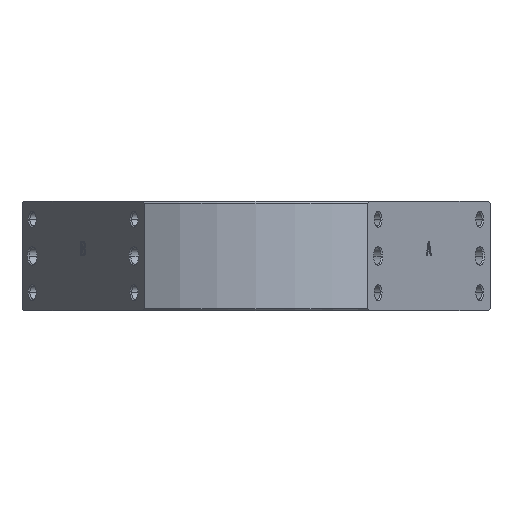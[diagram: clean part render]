
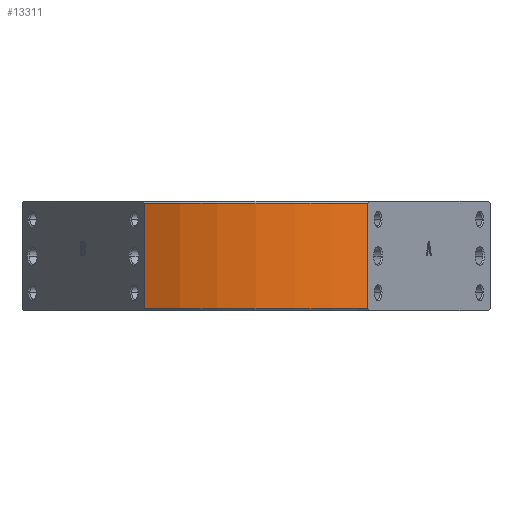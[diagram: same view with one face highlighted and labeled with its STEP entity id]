
A CAD part, front view. The second image highlights one B-rep face of the part: STEP entity #13311.
In plain terms, the highlighted cylindrical face has radius 57.5 mm (diameter 115 mm), a partial arc.
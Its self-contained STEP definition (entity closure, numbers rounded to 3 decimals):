
#448 = VERTEX_POINT ( 'NONE', #10459 ) ;
#572 = AXIS2_PLACEMENT_3D ( 'NONE', #11361, #11404, #11428 ) ;
#1230 = AXIS2_PLACEMENT_3D ( 'NONE', #8278, #8320, #8375 ) ;
#3530 = EDGE_LOOP ( 'NONE', ( #12257, #13969, #14517, #15101 ) ) ;
#4074 = DIRECTION ( 'NONE',  ( 0., 0., 1. ) ) ;
#5880 = VERTEX_POINT ( 'NONE', #18073 ) ;
#7192 = AXIS2_PLACEMENT_3D ( 'NONE', #10836, #10955, #19188 ) ;
#7388 = EDGE_CURVE ( 'NONE', #5880, #448, #9660, .T. ) ;
#7533 = EDGE_CURVE ( 'NONE', #11328, #13182, #9003, .T. ) ;
#8278 = CARTESIAN_POINT ( 'NONE',  ( 0., 0., -0.5 ) ) ;
#8320 = DIRECTION ( 'NONE',  ( 0., 0., -1. ) ) ;
#8375 = DIRECTION ( 'NONE',  ( 1., 0., 0. ) ) ;
#8732 = CARTESIAN_POINT ( 'NONE',  ( -27.5, -50.498, -27. ) ) ;
#9003 = CIRCLE ( 'NONE', #572, 57.5 ) ;
#9014 = DIRECTION ( 'NONE',  ( 0., 0., 1. ) ) ;
#9660 = CIRCLE ( 'NONE', #1230, 57.5 ) ;
#9765 = CARTESIAN_POINT ( 'NONE',  ( 27.5, -50.498, -27. ) ) ;
#10387 = LINE ( 'NONE', #8732, #10519 ) ;
#10459 = CARTESIAN_POINT ( 'NONE',  ( -27.5, -50.498, -0.5 ) ) ;
#10519 = VECTOR ( 'NONE', #9014, 1000. ) ;
#10836 = CARTESIAN_POINT ( 'NONE',  ( 0., 0., -27. ) ) ;
#10955 = DIRECTION ( 'NONE',  ( 0., 0., 1. ) ) ;
#11328 = VERTEX_POINT ( 'NONE', #17086 ) ;
#11361 = CARTESIAN_POINT ( 'NONE',  ( 0., 0., -26.5 ) ) ;
#11404 = DIRECTION ( 'NONE',  ( 0., 0., 1. ) ) ;
#11428 = DIRECTION ( 'NONE',  ( 1., 0., 0. ) ) ;
#12257 = ORIENTED_EDGE ( 'NONE', *, *, #15058, .F. ) ;
#13182 = VERTEX_POINT ( 'NONE', #13434 ) ;
#13311 = ADVANCED_FACE ( 'NONE', ( #14781 ), #14720, .T. ) ;
#13434 = CARTESIAN_POINT ( 'NONE',  ( 27.5, -50.498, -26.5 ) ) ;
#13969 = ORIENTED_EDGE ( 'NONE', *, *, #7533, .T. ) ;
#14517 = ORIENTED_EDGE ( 'NONE', *, *, #18040, .T. ) ;
#14720 = CYLINDRICAL_SURFACE ( 'NONE', #7192, 57.5 ) ;
#14781 = FACE_OUTER_BOUND ( 'NONE', #3530, .T. ) ;
#15058 = EDGE_CURVE ( 'NONE', #11328, #448, #10387, .T. ) ;
#15101 = ORIENTED_EDGE ( 'NONE', *, *, #7388, .T. ) ;
#15438 = VECTOR ( 'NONE', #4074, 1000. ) ;
#15467 = LINE ( 'NONE', #9765, #15438 ) ;
#17086 = CARTESIAN_POINT ( 'NONE',  ( -27.5, -50.498, -26.5 ) ) ;
#18040 = EDGE_CURVE ( 'NONE', #13182, #5880, #15467, .T. ) ;
#18073 = CARTESIAN_POINT ( 'NONE',  ( 27.5, -50.498, -0.5 ) ) ;
#19188 = DIRECTION ( 'NONE',  ( 1., 0., 0. ) ) ;
